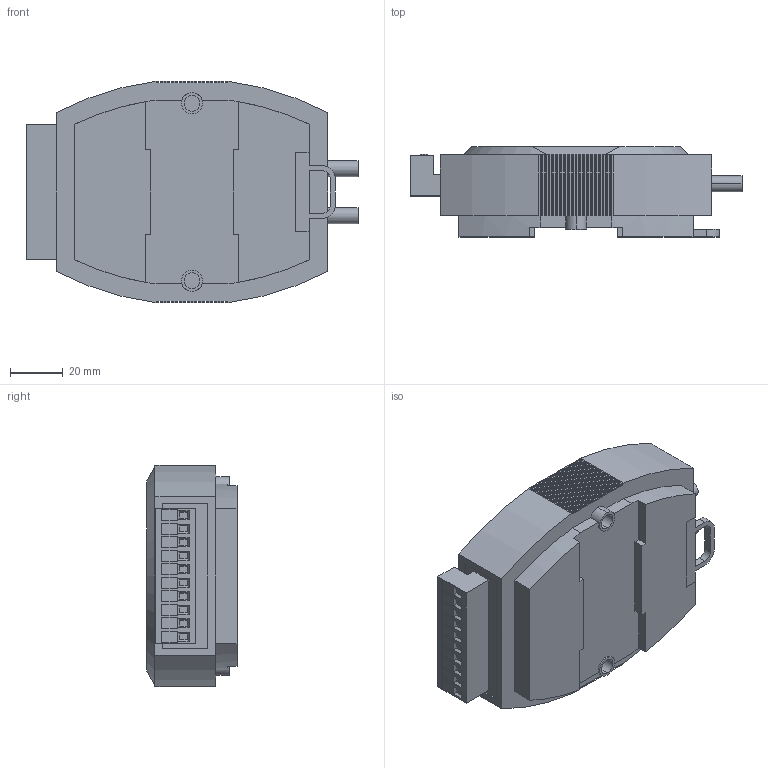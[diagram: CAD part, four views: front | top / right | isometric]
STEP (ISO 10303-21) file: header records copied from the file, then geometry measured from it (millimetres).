
FILE_DESCRIPTION (( 'STEP AP203' ), '1' );
FILE_NAME ('FBR-SERIAL-mm-ST.STEP', '2017-12-14T07:03:46', ( '' ), ( '' ), 'SwSTEP 2.0', 'SolidWorks 2013', '' );
FILE_SCHEMA (( 'CONFIG_CONTROL_DESIGN' ));
Length unit declared in the file: millimetre
Products named in the file (3): FBR-SERIAL-mm-ST; mm-st; pan cross head_am_B18.6.7M - M2 x 0.4 x 4 Type I Cross Recessed PHMS --4N
Assembly tree (11 placements, depth 2):
  FBR-SERIAL-mm-ST
    mm-st
    pan cross head_am_B18.6.7M - M2 x 0.4 x 4 Type I Cross Recessed PHMS --4N  x10
Bounding box: 125.4 x 34 x 83.5 mm (x, y, z)
Volume: 240231.7 mm3; surface area: 33320.1 mm2
Topology: 12 solids, 12 shells, 920 faces, 2810 edges, 2086 vertices
Faces by surface type: plane 774, cylinder 104, torus 20, sphere 20, bspline 2
Entity records: 31287 total; most frequent: CARTESIAN_POINT 10028, ORIENTED_EDGE 4720, DIRECTION 3590, EDGE_CURVE 2360, VERTEX_POINT 1816, LINE 1774, VECTOR 1774, AXIS2_PLACEMENT_3D 908
